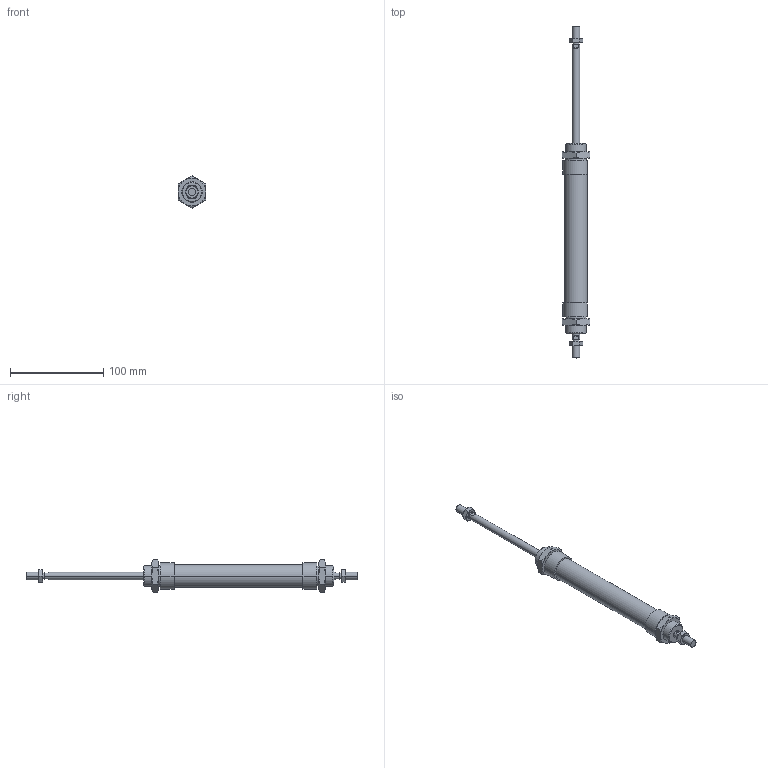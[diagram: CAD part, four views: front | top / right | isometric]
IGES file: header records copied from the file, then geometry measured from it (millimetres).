
Global section: file name: No Iges File Name specified; native system: AutoDesk Inventor R6.0; preprocessor: AutoDesk Inventor Iges Exporter R6.0; author: No Author specified; organization: No Organization specified; date: 20030403.072320; units: millimetre
Bounding box: 30 x 356 x 34.64 mm (x, y, z)
Volume: 107684.9 mm3; surface area: 36263.8 mm2
Topology: 6 solids, 6 shells, 186 faces, 414 edges, 244 vertices
Faces by surface type: cone 68, plane 60, bspline 32, cylinder 20, revolution 6
